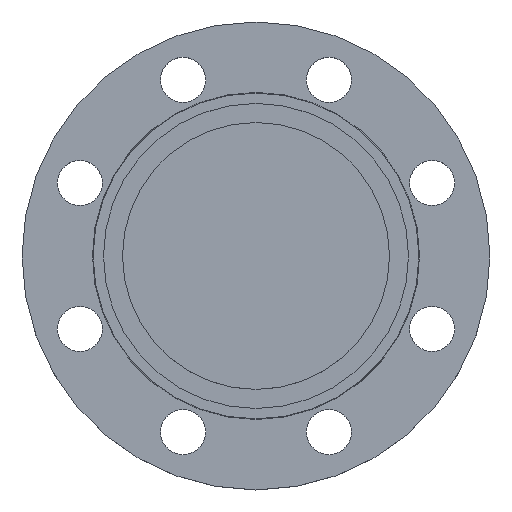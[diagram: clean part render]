
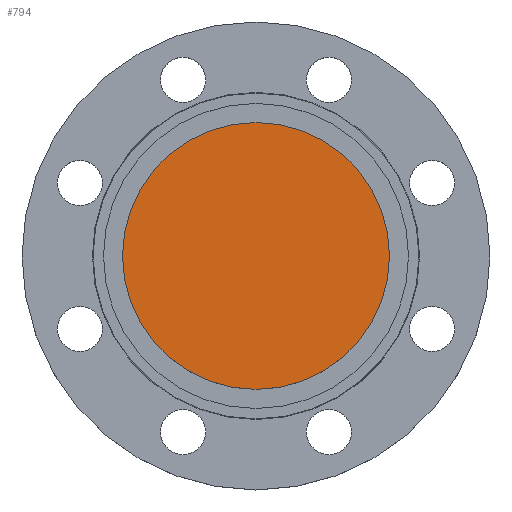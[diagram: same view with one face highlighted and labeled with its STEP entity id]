
A CAD part, top view. The second image highlights one B-rep face of the part: STEP entity #794.
In plain terms, the highlighted planar face has unit normal (0, 0, 1).
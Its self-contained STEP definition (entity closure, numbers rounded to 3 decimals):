
#14 = CARTESIAN_POINT ( 'NONE',  ( 0., 0., 0. ) ) ;
#31 = CIRCLE ( 'NONE', #598, 77. ) ;
#42 = VERTEX_POINT ( 'NONE', #278 ) ;
#51 = CARTESIAN_POINT ( 'NONE',  ( 0., 0., 0. ) ) ;
#140 = DIRECTION ( 'NONE',  ( -1., 0., 0. ) ) ;
#141 = EDGE_CURVE ( 'NONE', #397, #42, #784, .T. ) ;
#185 = CARTESIAN_POINT ( 'NONE',  ( -77., 0., 0. ) ) ;
#234 = AXIS2_PLACEMENT_3D ( 'NONE', #14, #322, #630 ) ;
#278 = CARTESIAN_POINT ( 'NONE',  ( 77., 0., 0. ) ) ;
#322 = DIRECTION ( 'NONE',  ( 0., 0., -1. ) ) ;
#353 = ORIENTED_EDGE ( 'NONE', *, *, #141, .F. ) ;
#357 = DIRECTION ( 'NONE',  ( 0., 0., 1. ) ) ;
#397 = VERTEX_POINT ( 'NONE', #185 ) ;
#427 = FACE_OUTER_BOUND ( 'NONE', #448, .T. ) ;
#448 = EDGE_LOOP ( 'NONE', ( #353, #722 ) ) ;
#515 = CARTESIAN_POINT ( 'NONE',  ( 0., 0., 0. ) ) ;
#554 = EDGE_CURVE ( 'NONE', #42, #397, #31, .T. ) ;
#598 = AXIS2_PLACEMENT_3D ( 'NONE', #515, #820, #140 ) ;
#630 = DIRECTION ( 'NONE',  ( -1., 0., 0. ) ) ;
#644 = AXIS2_PLACEMENT_3D ( 'NONE', #51, #357, #665 ) ;
#665 = DIRECTION ( 'NONE',  ( 1., 0., 0. ) ) ;
#722 = ORIENTED_EDGE ( 'NONE', *, *, #554, .F. ) ;
#740 = PLANE ( 'NONE',  #644 ) ;
#784 = CIRCLE ( 'NONE', #234, 77. ) ;
#794 = ADVANCED_FACE ( 'NONE', ( #427 ), #740, .T. ) ;
#820 = DIRECTION ( 'NONE',  ( 0., 0., -1. ) ) ;
